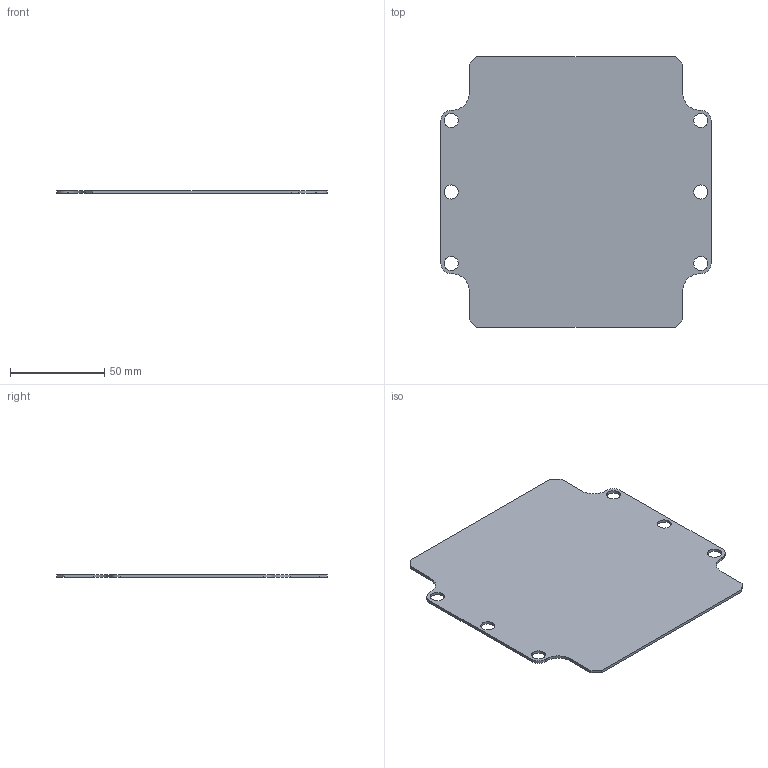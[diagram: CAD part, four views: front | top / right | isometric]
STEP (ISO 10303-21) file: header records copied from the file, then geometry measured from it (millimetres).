
FILE_DESCRIPTION (( 'STEP AP203' ), '1' );
FILE_NAME ('a160160p.STEP', '2013-06-05T17:47:01', ( 'User' ), ( 'Pentair Inc' ), 'SwSTEP 2.0', 'SolidWorks 2010', '' );
FILE_SCHEMA (( 'CONFIG_CONTROL_DESIGN' ));
Length unit declared in the file: inch
Products named in the file (1): a160160p
Bounding box: 143.5 x 144 x 1.5 mm (x, y, z)
Volume: 28050.7 mm3; surface area: 38424.1 mm2
Topology: 1 solids, 1 shells, 38 faces, 108 edges, 72 vertices
Faces by surface type: cylinder 20, plane 18
Entity records: 1355 total; most frequent: DIRECTION 226, CARTESIAN_POINT 219, ORIENTED_EDGE 216, EDGE_CURVE 108, AXIS2_PLACEMENT_3D 79, VERTEX_POINT 72, LINE 68, VECTOR 68
